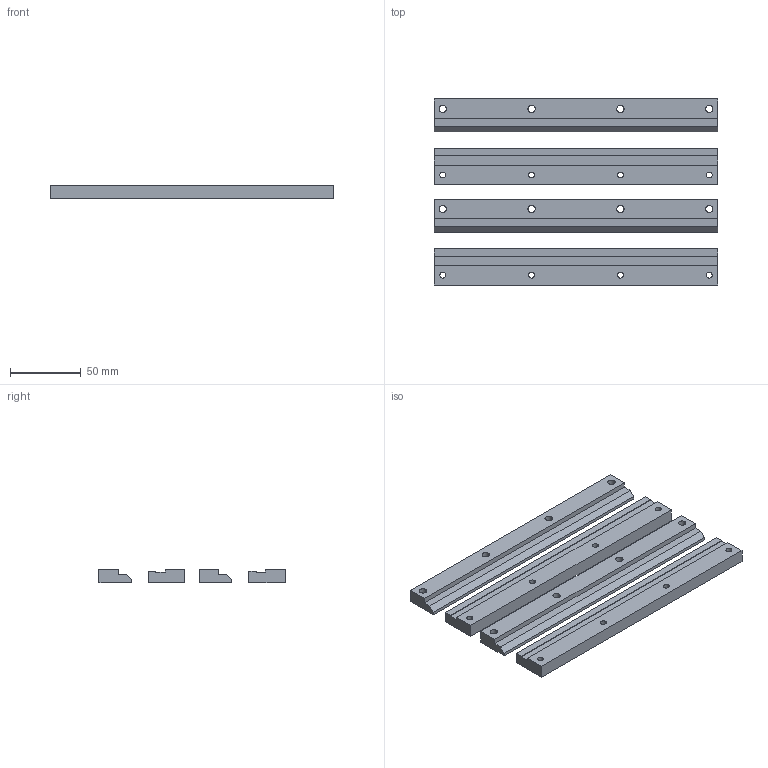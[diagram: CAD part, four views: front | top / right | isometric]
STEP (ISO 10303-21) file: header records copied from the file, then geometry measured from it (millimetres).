
FILE_DESCRIPTION(/* description */ (''),/* implementation_level */ '2;1');
FILE_NAME(/* name */ 'GUIDEB~1',/* time_stamp */ '2017-10-27T11:41:27-04:00',/* author */ (''),/* organization */ (''),/* preprocessor_version */ 'ST-DEVELOPER v15',/* originating_system */ '',/* authorisation */ '');
FILE_SCHEMA (('AUTOMOTIVE_DESIGN'));
Length unit declared in the file: millimetre
Products named in the file (1): Document
Bounding box: 200 x 131.29 x 9.5 mm (x, y, z)
Volume: 157876.8 mm3; surface area: 56991.6 mm2
Topology: 4 solids, 4 shells, 70 faces, 186 edges, 124 vertices
Faces by surface type: plane 38, bspline 32
Entity records: 2242 total; most frequent: CARTESIAN_POINT 1048, ORIENTED_EDGE 372, EDGE_CURVE 186, VERTEX_POINT 124, EDGE_LOOP 102, B_SPLINE_CURVE_WITH_KNOTS 90, ADVANCED_FACE 70, FACE_OUTER_BOUND 70
